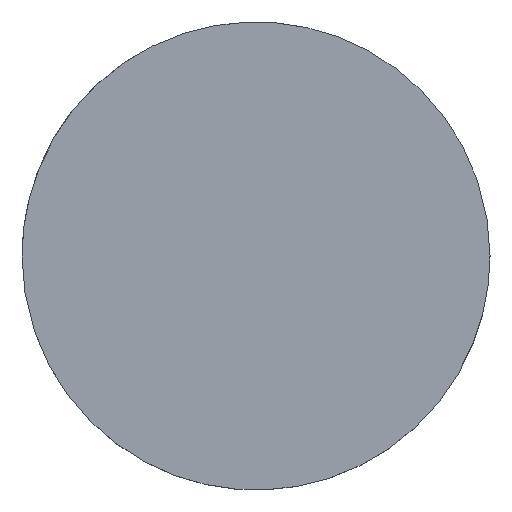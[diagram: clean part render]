
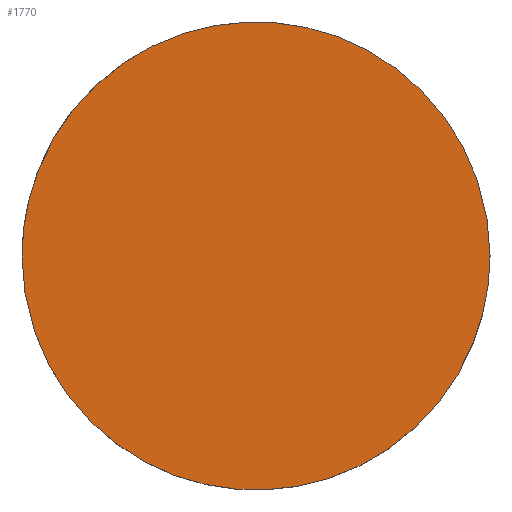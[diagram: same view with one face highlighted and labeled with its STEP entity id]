
A CAD part, top view. The second image highlights one B-rep face of the part: STEP entity #1770.
In plain terms, the highlighted planar face has unit normal (0, 0, 1).
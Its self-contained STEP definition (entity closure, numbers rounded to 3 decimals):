
#190 = CARTESIAN_POINT ('', (-25.4, 0., 0.));
#200 = VERTEX_POINT ('', #190);
#260 = CARTESIAN_POINT ('', (25.4, 0., 0.));
#270 = VERTEX_POINT ('', #260);
#280 = CARTESIAN_POINT ('', (25.4, 0., 0.));
#290 = CARTESIAN_POINT ('', (25.4, 25.4, 0.));
#300 = CARTESIAN_POINT ('', (0., 25.4, 0.));
#310 = CARTESIAN_POINT ('', (-25.4, 25.4, 0.));
#320 = CARTESIAN_POINT ('', (-25.4, 0., 0.));
#330 = (
   BOUNDED_CURVE ()
   B_SPLINE_CURVE (2, (#280, #290, #300, #310, #320), .UNSPECIFIED., .F., .U.)
   B_SPLINE_CURVE_WITH_KNOTS ((3, 2, 3), (0., 1.571, 3.142), .UNSPECIFIED.)
   CURVE ()
   GEOMETRIC_REPRESENTATION_ITEM ()
   RATIONAL_B_SPLINE_CURVE ((1., 0.707, 1., 0.707, 1.))
   REPRESENTATION_ITEM ('')
);
#340 = EDGE_CURVE ('', #270, #200, #330, .T.);
#580 = CARTESIAN_POINT ('', (-25.4, 0., 0.));
#590 = CARTESIAN_POINT ('', (-25.4, -25.4, 0.));
#600 = CARTESIAN_POINT ('', (0., -25.4, 0.));
#610 = CARTESIAN_POINT ('', (25.4, -25.4, 0.));
#620 = CARTESIAN_POINT ('', (25.4, 0., 0.));
#630 = (
   BOUNDED_CURVE ()
   B_SPLINE_CURVE (2, (#580, #590, #600, #610, #620), .UNSPECIFIED., .F., .U.)
   B_SPLINE_CURVE_WITH_KNOTS ((3, 2, 3), (3.142, 4.712, 6.283), .UNSPECIFIED.)
   CURVE ()
   GEOMETRIC_REPRESENTATION_ITEM ()
   RATIONAL_B_SPLINE_CURVE ((1., 0.707, 1., 0.707, 1.))
   REPRESENTATION_ITEM ('')
);
#640 = EDGE_CURVE ('', #200, #270, #630, .T.);
#1680 = ORIENTED_EDGE ('', *, *, #340, .T.);
#1690 = ORIENTED_EDGE ('', *, *, #640, .T.);
#1700 = EDGE_LOOP ('', (#1680, #1690));
#1710 = FACE_OUTER_BOUND ('', #1700, .T.);
#1720 = CARTESIAN_POINT ('', (0., 52.02, 0.));
#1730 = DIRECTION ('', (0., 0., 1.));
#1740 = DIRECTION ('', (-0.707, -0.707, 0.));
#1750 = AXIS2_PLACEMENT_3D ('', #1720, #1730, #1740);
#1760 = PLANE ('', #1750);
#1770 = ADVANCED_FACE ('', (#1710), #1760, .T.);
